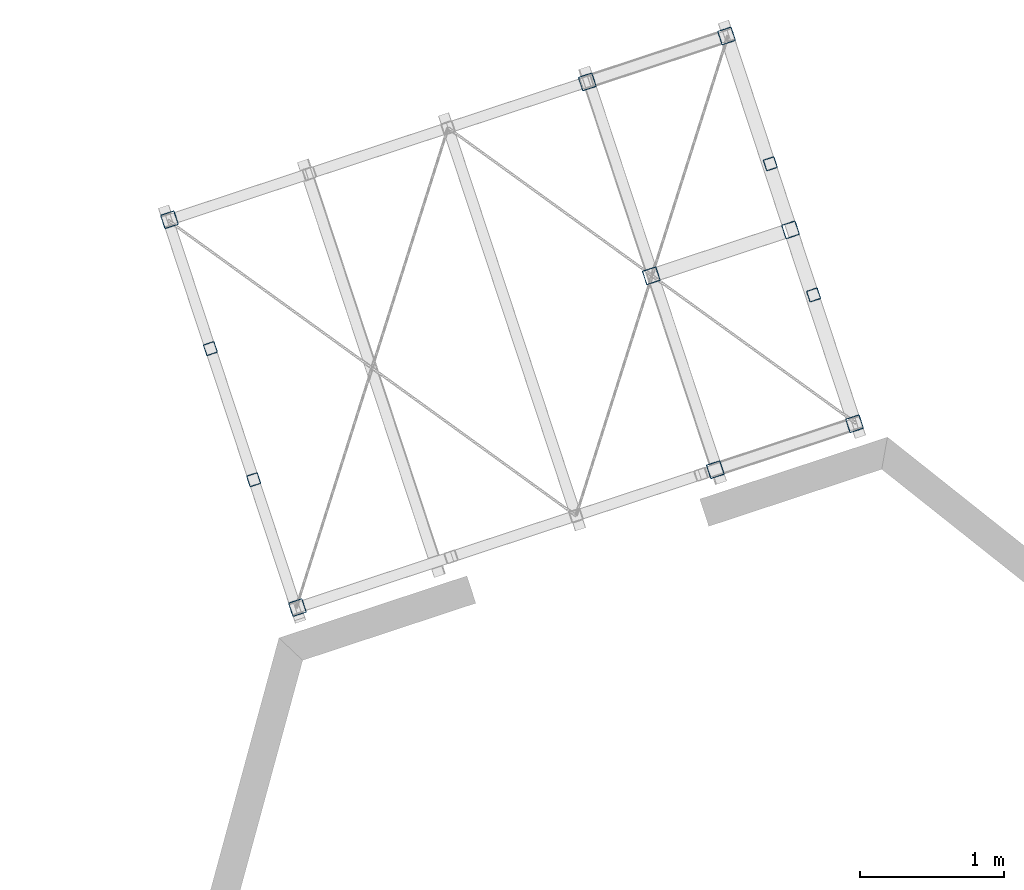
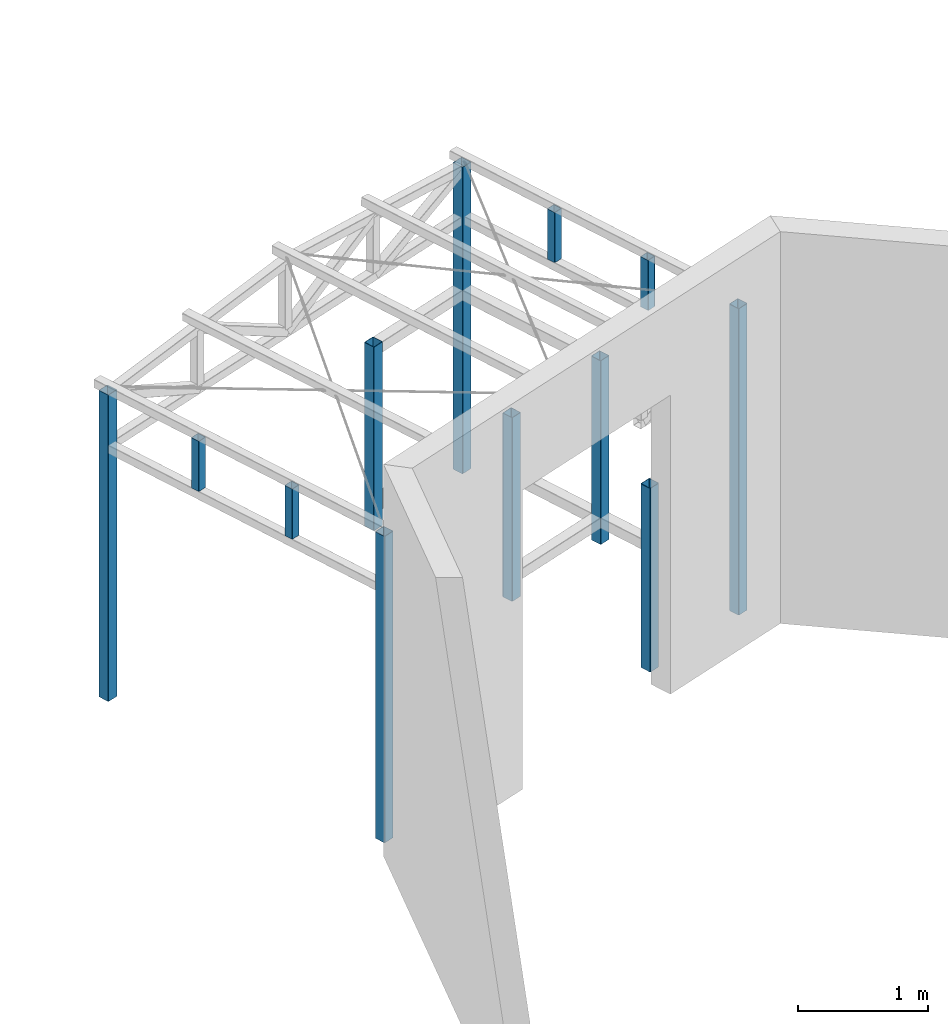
# One storey, part 2 of 9: 12 columns, 12 elements without a shape of their own.
"""IFC2X3 building model written with IfcOpenShell, lengths in millimetres."""

from ifc_helpers import new_model, si_unit, frame, origin_with_axes, origin_2d_with_axis, place, context, subcontext, project, spatial, hollow_rectangle, extrude, material, type_object, element, aggregate, save


model = new_model("IFC2X3")

# Units and contexts
model_context = context("Model", 3, precision=1e-05, world=origin_with_axes())
body_context = subcontext(model_context, "Body", "Model", "MODEL_VIEW")
ifc_project = project(units=[si_unit("LENGTHUNIT", "METRE", prefix="MILLI"), si_unit("AREAUNIT", "SQUARE_METRE"), si_unit("VOLUMEUNIT", "CUBIC_METRE"), si_unit("MASSUNIT", "GRAM", prefix="KILO"), si_unit("TIMEUNIT", "SECOND"), si_unit("PLANEANGLEUNIT", "RADIAN"), si_unit("SOLIDANGLEUNIT", "STERADIAN"), si_unit("THERMODYNAMICTEMPERATUREUNIT", "DEGREE_CELSIUS"), si_unit("LUMINOUSINTENSITYUNIT", "LUMEN")], contexts=[model_context])

# Site, building, storey
site_placement = place(None, origin_with_axes())
site = spatial("IfcSite", under=ifc_project, at=site_placement, Name="01_26-05_PRO_BOULAZAC_CMA-FORMATION", CompositionType="ELEMENT")
building_placement = place(site_placement, origin_with_axes())
building = spatial("IfcBuilding", under=site, at=building_placement, Name="Undefined", CompositionType="ELEMENT")
storey_placement = place(building_placement, origin_with_axes())
storey = spatial("IfcBuildingStorey", under=building, at=storey_placement, Name="Undefined", CompositionType="ELEMENT", Elevation=0.0)

# Assembly, column
assembly_1_placement = place(storey_placement, origin_with_axes())
assembly_1 = element("IfcElementAssembly", 1, at=assembly_1_placement, inside=storey, Name="MONTANT", AssemblyPlace="NOTDEFINED", PredefinedType="NOTDEFINED")
ifc_material = material(Name="STEEL/S235JR")
column_type_1 = type_object("IfcColumnType", Name="TUBE-C-80*80*3", PredefinedType="NOTDEFINED")
column_1_placement = place(assembly_1_placement, frame((11363.7177490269, 34847.7408908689, 2399.99999999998), z_axis=(0.0, 0.0, 1.0), x_axis=(0.3133788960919, -0.94962817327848, 0.0)))
column_1 = element("IfcColumn", 2, at=column_1_placement, type_object=column_type_1, material=ifc_material, Name="MONTANT", context=body_context, shape_type="SweptSolid", body=[
    extrude(hollow_rectangle(XDim=80.0, YDim=80.0, WallThickness=3.0, InnerFilletRadius=3.0, OuterFilletRadius=6.0, at=origin_2d_with_axis()), frame((-3.63797880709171e-12, 0.0, 469.999999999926), z_axis=(0.0, 0.0, -1.0), x_axis=(0.0, 1.0, 0.0)), (0.0, 0.0, 1.0), 470.0),
])
aggregate(assembly_1, [column_1])

assembly_2_placement = place(storey_placement, origin_with_axes())
assembly_2 = element("IfcElementAssembly", 3, at=assembly_2_placement, inside=storey, Name="MONTANT", AssemblyPlace="NOTDEFINED", PredefinedType="NOTDEFINED")
column_2_placement = place(assembly_2_placement, frame((11664.5614888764, 33936.097844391, 2399.99999999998), z_axis=(0.0, 0.0, 1.0), x_axis=(0.3133788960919, -0.94962817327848, 0.0)))
column_2 = element("IfcColumn", 4, at=column_2_placement, type_object=column_type_1, material=ifc_material, Name="MONTANT", context=body_context, shape_type="SweptSolid", body=[
    extrude(hollow_rectangle(XDim=80.0, YDim=80.0, WallThickness=3.0, InnerFilletRadius=3.0, OuterFilletRadius=6.0, at=origin_2d_with_axis()), frame((-3.63797880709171e-12, 0.0, 469.999999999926), z_axis=(0.0, 0.0, -1.0), x_axis=(0.0, 1.0, 0.0)), (0.0, 0.0, 1.0), 470.0),
])
aggregate(assembly_2, [column_2])

assembly_3_placement = place(storey_placement, origin_with_axes())
assembly_3 = element("IfcElementAssembly", 5, at=assembly_3_placement, inside=storey, Name="MONTANT", AssemblyPlace="NOTDEFINED", PredefinedType="NOTDEFINED")
column_3_placement = place(assembly_3_placement, frame((15257.190511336, 36132.5951957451, 2399.99999999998), z_axis=(0.0, 0.0, 1.0), x_axis=(0.313379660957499, -0.949627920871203, 0.0)))
column_3 = element("IfcColumn", 6, at=column_3_placement, type_object=column_type_1, material=ifc_material, Name="MONTANT", context=body_context, shape_type="SweptSolid", body=[
    extrude(hollow_rectangle(XDim=80.0, YDim=80.0, WallThickness=3.0, InnerFilletRadius=3.0, OuterFilletRadius=6.0, at=origin_2d_with_axis()), frame((-3.63797880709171e-12, 0.0, 469.999999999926), z_axis=(0.0, 0.0, -1.0), x_axis=(0.0, 1.0, 0.0)), (0.0, 0.0, 1.0), 470.0),
])
aggregate(assembly_3, [column_3])

assembly_4_placement = place(storey_placement, origin_with_axes())
assembly_4 = element("IfcElementAssembly", 7, at=assembly_4_placement, inside=storey, Name="MONTANT", AssemblyPlace="NOTDEFINED", PredefinedType="NOTDEFINED")
column_4_placement = place(assembly_4_placement, frame((15558.0349858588, 35220.95239171, 2399.99999999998), z_axis=(0.0, 0.0, 1.0), x_axis=(0.313379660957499, -0.949627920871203, 0.0)))
column_4 = element("IfcColumn", 8, at=column_4_placement, type_object=column_type_1, material=ifc_material, Name="MONTANT", context=body_context, shape_type="SweptSolid", body=[
    extrude(hollow_rectangle(XDim=80.0, YDim=80.0, WallThickness=3.0, InnerFilletRadius=3.0, OuterFilletRadius=6.0, at=origin_2d_with_axis()), frame((-3.63797880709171e-12, 0.0, 469.999999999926), z_axis=(0.0, 0.0, -1.0), x_axis=(0.0, 1.0, 0.0)), (0.0, 0.0, 1.0), 470.0),
])
aggregate(assembly_4, [column_4])

assembly_5_placement = place(storey_placement, origin_with_axes())
assembly_5 = element("IfcElementAssembly", 9, at=assembly_5_placement, inside=storey, Name="POTEAU", AssemblyPlace="NOTDEFINED", PredefinedType="NOTDEFINED")
column_type_2 = type_object("IfcColumnType", Name="TUBE-C-100*100*3", PredefinedType="NOTDEFINED")
column_5_placement = place(assembly_5_placement, frame((11968.6331426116, 33046.5809333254, 9.4074778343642e-11), z_axis=(0.0, 0.0, 1.0), x_axis=(0.313379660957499, -0.949627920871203, 0.0)))
column_5 = element("IfcColumn", 10, at=column_5_placement, type_object=column_type_2, material=ifc_material, Name="POTEAU", context=body_context, shape_type="SweptSolid", body=[
    extrude(hollow_rectangle(XDim=100.0, YDim=100.0, WallThickness=3.0, InnerFilletRadius=3.0, OuterFilletRadius=6.0, at=origin_2d_with_axis()), frame((0.0, 0.0, 2870.0), z_axis=(0.0, 0.0, -1.0), x_axis=(0.0, 1.0, 0.0)), (0.0, 0.0, 1.0), 2870.0),
])
aggregate(assembly_5, [column_5])

assembly_6_placement = place(storey_placement, origin_with_axes())
assembly_6 = element("IfcElementAssembly", 11, at=assembly_6_placement, inside=storey, Name="POTEAU", AssemblyPlace="NOTDEFINED", PredefinedType="NOTDEFINED")
column_6_placement = place(assembly_6_placement, frame((13984.4968715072, 36702.4643906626, 1.07734198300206e-10), z_axis=(0.0, 0.0, 1.0), x_axis=(0.313379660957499, -0.949627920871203, 0.0)))
column_6 = element("IfcColumn", 12, at=column_6_placement, type_object=column_type_2, material=ifc_material, Name="POTEAU", context=body_context, shape_type="SweptSolid", body=[
    extrude(hollow_rectangle(XDim=100.0, YDim=100.0, WallThickness=3.0, InnerFilletRadius=3.0, OuterFilletRadius=6.0, at=origin_2d_with_axis()), frame((0.0, 0.0, 1719.99999999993), z_axis=(0.0, 0.0, -1.0), x_axis=(0.0, 1.0, 0.0)), (0.0, 0.0, 1.0), 1720.0),
])
aggregate(assembly_6, [column_6])

assembly_7_placement = place(storey_placement, origin_with_axes())
assembly_7 = element("IfcElementAssembly", 13, at=assembly_7_placement, inside=storey, Name="POTEAU", AssemblyPlace="NOTDEFINED", PredefinedType="NOTDEFINED")
column_7_placement = place(assembly_7_placement, frame((14874.4951086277, 34005.5210954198, 1.07734198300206e-10), z_axis=(0.0, 0.0, 1.0), x_axis=(0.313379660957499, -0.949627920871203, 0.0)))
column_7 = element("IfcColumn", 14, at=column_7_placement, type_object=column_type_2, material=ifc_material, Name="POTEAU", context=body_context, shape_type="SweptSolid", body=[
    extrude(hollow_rectangle(XDim=100.0, YDim=100.0, WallThickness=3.0, InnerFilletRadius=3.0, OuterFilletRadius=6.0, at=origin_2d_with_axis()), frame((0.0, 0.0, 1719.99999999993), z_axis=(0.0, 0.0, -1.0), x_axis=(0.0, 1.0, 0.0)), (0.0, 0.0, 1.0), 1720.0),
])
aggregate(assembly_7, [column_7])

assembly_8_placement = place(storey_placement, origin_with_axes())
assembly_8 = element("IfcElementAssembly", 15, at=assembly_8_placement, inside=storey, Name="POTEAU", AssemblyPlace="NOTDEFINED", PredefinedType="NOTDEFINED")
column_8_placement = place(assembly_8_placement, frame((14429.4959900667, 35353.992743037, 1.07718129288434e-10), z_axis=(0.0, 0.0, 1.0), x_axis=(0.313379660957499, -0.949627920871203, 0.0)))
column_8 = element("IfcColumn", 16, at=column_8_placement, type_object=column_type_2, material=ifc_material, Name="POTEAU", context=body_context, shape_type="SweptSolid", body=[
    extrude(hollow_rectangle(XDim=100.0, YDim=100.0, WallThickness=3.0, InnerFilletRadius=3.0, OuterFilletRadius=6.0, at=origin_2d_with_axis()), frame((0.0, 0.0, 1719.99999999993), z_axis=(0.0, 0.0, -1.0), x_axis=(0.0, 1.0, 0.0)), (0.0, 0.0, 1.0), 1720.0),
])
aggregate(assembly_8, [column_8])

assembly_9_placement = place(storey_placement, origin_with_axes())
assembly_9 = element("IfcElementAssembly", 17, at=assembly_9_placement, inside=storey, Name="POTEAU", AssemblyPlace="NOTDEFINED", PredefinedType="NOTDEFINED")
column_9_placement = place(assembly_9_placement, frame((15843.1155879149, 34325.1683495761, 5.32633633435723e-11), z_axis=(0.0, 0.0, 1.0), x_axis=(0.313379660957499, -0.949627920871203, 0.0)))
column_9 = element("IfcColumn", 18, at=column_9_placement, type_object=column_type_2, material=ifc_material, Name="POTEAU", context=body_context, shape_type="SweptSolid", body=[
    extrude(hollow_rectangle(XDim=100.0, YDim=100.0, WallThickness=3.0, InnerFilletRadius=3.0, OuterFilletRadius=6.0, at=origin_2d_with_axis()), frame((0.0, 0.0, 2870.0), z_axis=(0.0, 0.0, -1.0), x_axis=(0.0, 1.0, 0.0)), (0.0, 0.0, 1.0), 2870.0),
])
aggregate(assembly_9, [column_9])

assembly_10_placement = place(storey_placement, origin_with_axes())
assembly_10 = element("IfcElementAssembly", 19, at=assembly_10_placement, inside=storey, Name="POTEAU", AssemblyPlace="NOTDEFINED", PredefinedType="NOTDEFINED")
column_10_placement = place(assembly_10_placement, frame((15398.1164693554, 35673.6399972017, 3.96039433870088e-11), z_axis=(0.0, 0.0, 1.0), x_axis=(0.313379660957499, -0.949627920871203, 0.0)))
column_10 = element("IfcColumn", 20, at=column_10_placement, type_object=column_type_2, material=ifc_material, Name="POTEAU", context=body_context, shape_type="SweptSolid", body=[
    extrude(hollow_rectangle(XDim=100.0, YDim=100.0, WallThickness=3.0, InnerFilletRadius=3.0, OuterFilletRadius=6.0, at=origin_2d_with_axis()), frame((0.0, 0.0, 1719.99999999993), z_axis=(0.0, 0.0, -1.0), x_axis=(0.0, 1.0, 0.0)), (0.0, 0.0, 1.0), 1720.0),
])
aggregate(assembly_10, [column_10])

assembly_11_placement = place(storey_placement, origin_with_axes())
assembly_11 = element("IfcElementAssembly", 21, at=assembly_11_placement, inside=storey, Name="POTEAU", AssemblyPlace="NOTDEFINED", PredefinedType="NOTDEFINED")
column_11_placement = place(assembly_11_placement, frame((11078.635433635, 35743.5226281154, 3.22004994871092e-10), z_axis=(0.0, 0.0, 1.0), x_axis=(0.313379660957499, -0.949627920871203, 0.0)))
column_11 = element("IfcColumn", 22, at=column_11_placement, type_object=column_type_2, material=ifc_material, Name="POTEAU", context=body_context, shape_type="SweptSolid", body=[
    extrude(hollow_rectangle(XDim=100.0, YDim=100.0, WallThickness=3.0, InnerFilletRadius=3.0, OuterFilletRadius=6.0, at=origin_2d_with_axis()), frame((0.0, 0.0, 2870.0), z_axis=(0.0, 0.0, -1.0), x_axis=(0.0, 1.0, 0.0)), (0.0, 0.0, 1.0), 2870.0),
])
aggregate(assembly_11, [column_11])

assembly_12_placement = place(storey_placement, origin_with_axes())
assembly_12 = element("IfcElementAssembly", 23, at=assembly_12_placement, inside=storey, Name="POTEAU", AssemblyPlace="NOTDEFINED", PredefinedType="NOTDEFINED")
column_12_placement = place(assembly_12_placement, frame((14953.1173507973, 37022.1116448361, 5.34663850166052e-11), z_axis=(0.0, 0.0, 1.0), x_axis=(0.313379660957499, -0.949627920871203, 0.0)))
column_12 = element("IfcColumn", 24, at=column_12_placement, type_object=column_type_2, material=ifc_material, Name="POTEAU", context=body_context, shape_type="SweptSolid", body=[
    extrude(hollow_rectangle(XDim=100.0, YDim=100.0, WallThickness=3.0, InnerFilletRadius=3.0, OuterFilletRadius=6.0, at=origin_2d_with_axis()), frame((0.0, 0.0, 2870.0), z_axis=(0.0, 0.0, -1.0), x_axis=(0.0, 1.0, 0.0)), (0.0, 0.0, 1.0), 2870.0),
])
aggregate(assembly_12, [column_12])

save(model, "model.ifc")
